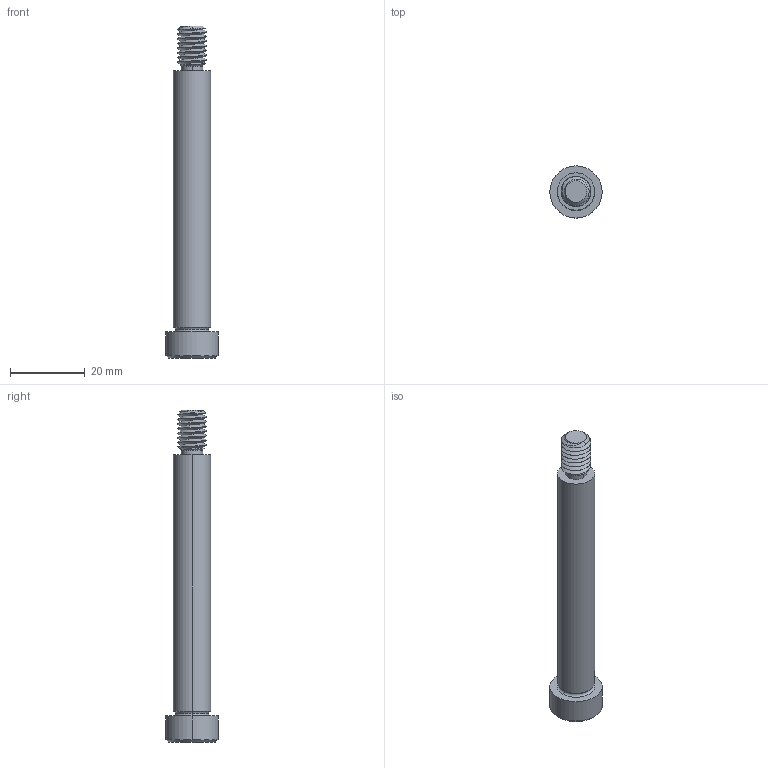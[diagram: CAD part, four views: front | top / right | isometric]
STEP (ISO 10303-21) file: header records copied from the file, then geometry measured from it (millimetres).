
FILE_DESCRIPTION (( 'STEP AP203' ), '1' );
FILE_NAME ('P0130.100-070-B8.step', '2021-11-09T21:58:26', ( '' ), ( '' ), 'SwSTEP 2.0', 'SolidWorks 2019', '' );
FILE_SCHEMA (( 'CONFIG_CONTROL_DESIGN' ));
Length unit declared in the file: millimetre
Products named in the file (1): P0130.100-070-B8
Bounding box: 14 x 14 x 89 mm (x, y, z)
Volume: 6865.4 mm3; surface area: 3377.1 mm2
Topology: 1 solids, 1 shells, 58 faces, 136 edges, 81 vertices
Faces by surface type: cylinder 21, plane 16, cone 15, torus 4, bspline 2
Entity records: 4214 total; most frequent: CARTESIAN_POINT 2911, ORIENTED_EDGE 268, DIRECTION 241, EDGE_CURVE 134, AXIS2_PLACEMENT_3D 97, VERTEX_POINT 81, EDGE_LOOP 61, ADVANCED_FACE 58
